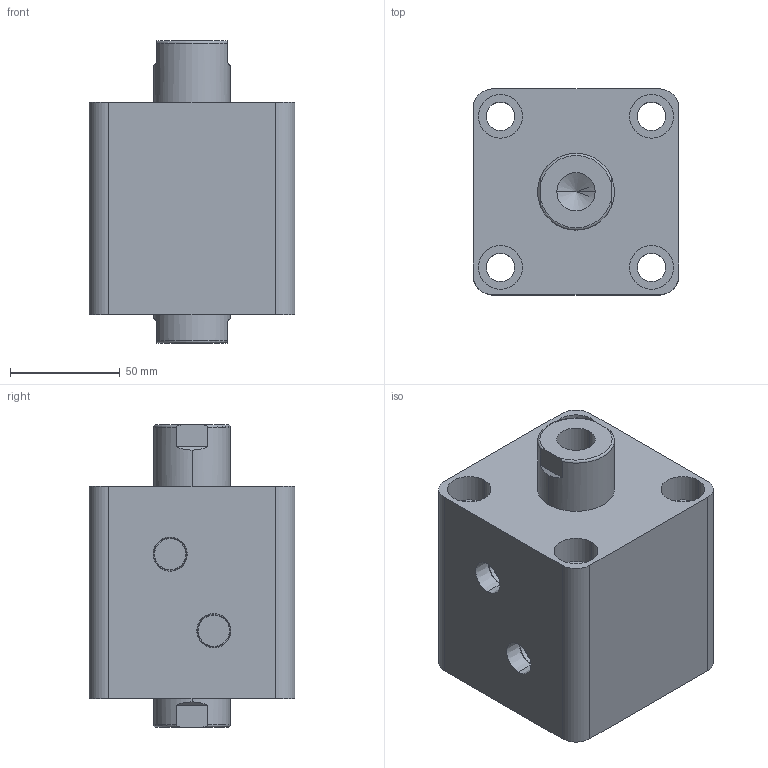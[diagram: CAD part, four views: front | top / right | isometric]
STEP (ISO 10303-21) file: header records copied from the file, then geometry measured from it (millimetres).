
FILE_DESCRIPTION (( 'STEP AP203' ), '1' );
FILE_NAME ('HTB-SW63-15N.STEP', '2019-10-07T10:02:06', ( '微软用户' ), ( '微软中国' ), 'SwSTEP 2.0', 'SolidWorks 2012', '' );
FILE_SCHEMA (( 'CONFIG_CONTROL_DESIGN' ));
Length unit declared in the file: millimetre
Products named in the file (3): HTB-SW63-15N; HTB-SW63-15N活塞杆; HTB-SW63-15掛极
Assembly tree (2 placements, depth 2):
  HTB-SW63-15N
    HTB-SW63-15掛极
    HTB-SW63-15N活塞杆
Bounding box: 94 x 94 x 138 mm (x, y, z)
Volume: 772292.2 mm3; surface area: 111722.9 mm2
Topology: 2 solids, 2 shells, 100 faces, 228 edges, 146 vertices
Faces by surface type: cylinder 48, plane 32, torus 12, cone 8
Entity records: 3253 total; most frequent: CARTESIAN_POINT 611, DIRECTION 542, ORIENTED_EDGE 448, AXIS2_PLACEMENT_3D 229, EDGE_CURVE 224, VERTEX_POINT 146, EDGE_LOOP 128, CIRCLE 124
